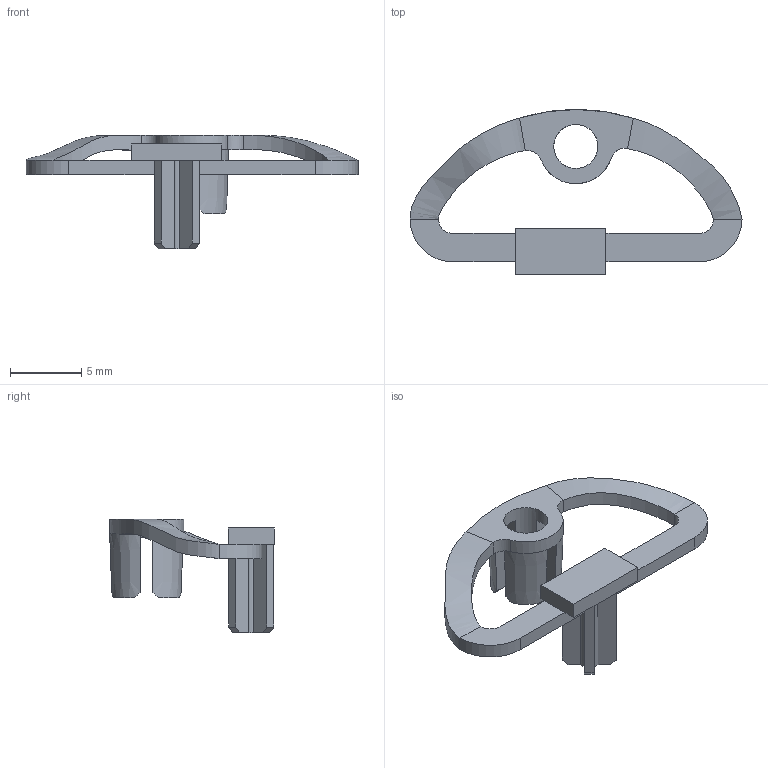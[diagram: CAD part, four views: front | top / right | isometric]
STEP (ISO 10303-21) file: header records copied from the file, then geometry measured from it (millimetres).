
FILE_DESCRIPTION(('FreeCAD Model'),'2;1');
FILE_NAME('Open CASCADE Shape Model','2025-03-08T02:01:20',('Author'),( ''),'Open CASCADE STEP processor 7.8','FreeCAD','Unknown');
FILE_SCHEMA(('AUTOMOTIVE_DESIGN { 1 0 10303 214 1 1 1 1 }'));
Length unit declared in the file: millimetre
Products named in the file (1): BatteryLatchTensionHolder
Bounding box: 23.3 x 11.58 x 7.96 mm (x, y, z)
Volume: 198.2 mm3; surface area: 560.2 mm2
Topology: 1 solids, 1 shells, 80 faces, 229 edges, 148 vertices
Faces by surface type: plane 55, cylinder 13, bspline 8, cone 4
Full cylindrical faces by diameter (mm): 3.1 x1
Entity records: 5839 total; most frequent: CARTESIAN_POINT 1341, DIRECTION 840, LINE 492, VECTOR 492, ORIENTED_EDGE 458, PCURVE 458, DEFINITIONAL_REPRESENTATION 458, EDGE_CURVE 229
